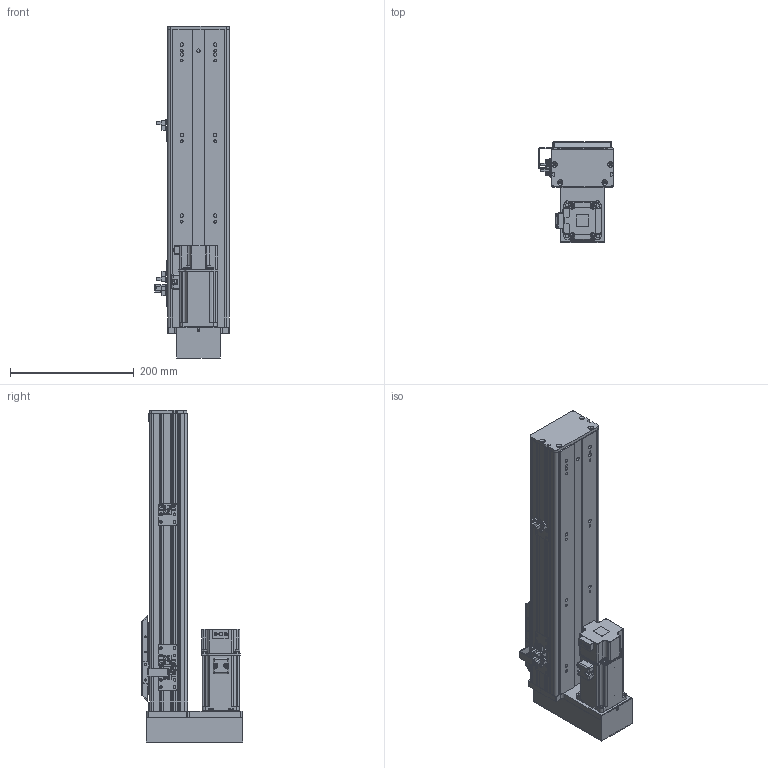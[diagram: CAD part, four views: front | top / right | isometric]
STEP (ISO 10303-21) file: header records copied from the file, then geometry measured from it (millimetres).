
FILE_DESCRIPTION (( 'STEP AP203' ), '1' );
FILE_NAME ('BOSW100-300-1610-1P-DM-M400W-O-S3（方程式2016）.step', '2020-10-10T06:41:22', ( '' ), ( '' ), 'SwSTEP 2.0', 'SolidWorks 2016', '' );
FILE_SCHEMA (( 'CONFIG_CONTROL_DESIGN' ));
Length unit declared in the file: millimetre
Products named in the file (14): 放大器内置U型微型光电传感器PM-L65; BOSW-100-1P-DM-300諦誧芞; BOSW&TW-100-俋离覜茼え; BOS100-DM鎮湛欶; BOSW-100-1P-DM-宽轨-钢带-300客户图纸; 新结构AIMSW-100-1P-宽&高轨共用-滑动座上组件; BOSW&TW-100-1P-賑雄釱欶; BOSW-100-1P-DM-宽轨-侧板-300客户图纸; S400W(SMA-L040); BOS-100-DM鎮湛假蚾啣; BOSW-100-綴裔啣; BOSW&TW-100-詩湍揤沭(陔賦凳); BOSW100-300-1610-1P-DM-M400W-O-S3（方程式2016）; 俋境嫖覜嘐隅啣
Assembly tree (19 placements, depth 2):
  BOSW100-300-1610-1P-DM-M400W-O-S3（方程式2016）
    BOSW-100-1P-DM-300諦誧芞
    BOSW-100-綴裔啣
    新结构AIMSW-100-1P-宽&高轨共用-滑动座上组件
    S400W(SMA-L040)
    BOSW&TW-100-詩湍揤沭(陔賦凳)  x2
    BOSW&TW-100-1P-賑雄釱欶
    BOSW&TW-100-俋离覜茼え
    俋境嫖覜嘐隅啣  x3
    放大器内置U型微型光电传感器PM-L65  x3
    BOSW-100-1P-DM-宽轨-侧板-300客户图纸  x2
    BOSW-100-1P-DM-宽轨-钢带-300客户图纸
    BOS100-DM鎮湛欶
    BOS-100-DM鎮湛假蚾啣
Bounding box: 120.9 x 164 x 536 mm (x, y, z)
Volume: 1339221.4 mm3; surface area: 653202.1 mm2
Topology: 19 solids, 19 shells, 2528 faces, 6668 edges, 4261 vertices
Faces by surface type: plane 1263, cylinder 789, bspline 271, cone 157, torus 36, sphere 12
Entity records: 69335 total; most frequent: CARTESIAN_POINT 20780, ORIENTED_EDGE 9892, DIRECTION 9562, EDGE_CURVE 4946, AXIS2_PLACEMENT_3D 3372, VERTEX_POINT 3163, VECTOR 2818, LINE 2818
